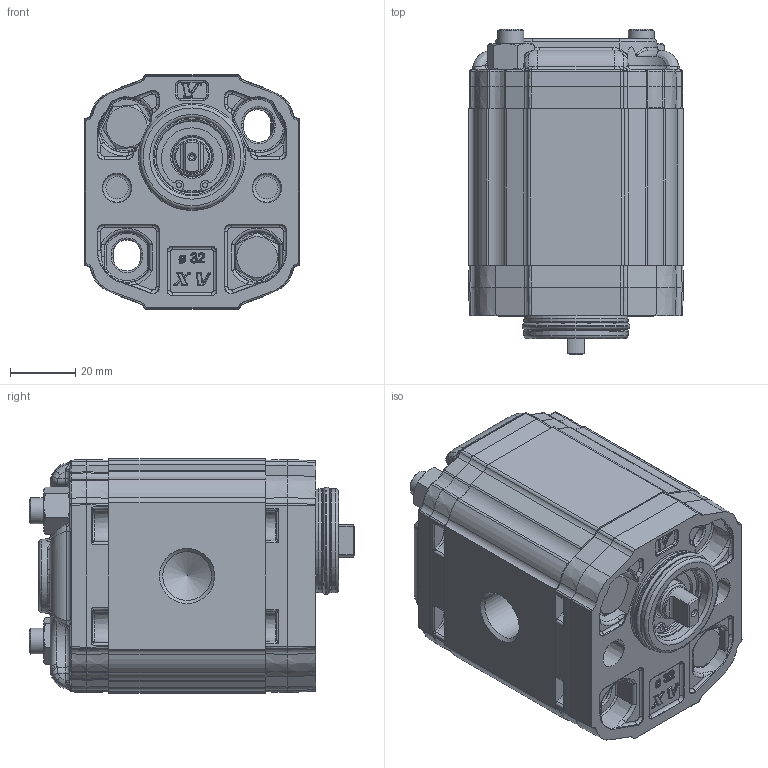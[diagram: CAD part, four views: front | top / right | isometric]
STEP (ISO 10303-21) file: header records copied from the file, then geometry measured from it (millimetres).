
FILE_DESCRIPTION(/* description */ ('Unknown'),/* implementation_level */ '2;1');
FILE_NAME(/* name */ 'X1M2125DBBF',/* time_stamp */ '2026-05-27T08:17:27+02:00',/* author */ ('Unknown'),/* organization */ ('Unknown'),/* preprocessor_version */ 'ST-DEVELOPER v16.7',/* originating_system */ 'Solid Edge',/* authorisation */ 'Unknown');
FILE_SCHEMA (('AUTOMOTIVE_DESIGN {1 0 10303 214 3 1 1}'));
Products named in the file (5): X1M2125DBBF; X1M25; 1D; X1BBH48; XM119-F
Assembly tree (4 placements, depth 2):
  X1M2125DBBF
    X1M25
    1D
    X1BBH48
    XM119-F
Bounding box: 66 x 99.99 x 72 mm (x, y, z)
Volume: 315421.8 mm3; surface area: 64455.1 mm2
Topology: 4 solids, 5 shells, 2429 faces, 5753 edges, 3374 vertices
Faces by surface type: cylinder 706, bspline 607, plane 523, torus 273, cone 235, sphere 85
Full cylindrical faces by diameter (mm): 1.447 x2, 1.5 x1, 8 x6, 8.5 x3, 9 x2, 10 x1, 10.5 x2, 11.965 x1, 12 x1, 12.4 x1, 14.95 x2, 15.115 x1, 17.147 x1, 19 x1, 20 x1, 21.8 x1, 22 x2, 22.2 x1, 23 x1, 24 x1, 29.4 x2, 32 x1, 32.96 x1
Entity records: 131874 total; most frequent: CARTESIAN_POINT 62867, ORIENTED_EDGE 11060, DIRECTION 10388, EDGE_CURVE 5530, AXIS2_PLACEMENT_3D 4313, VERTEX_POINT 3320, FACE_BOUND 2658, EDGE_LOOP 2654
